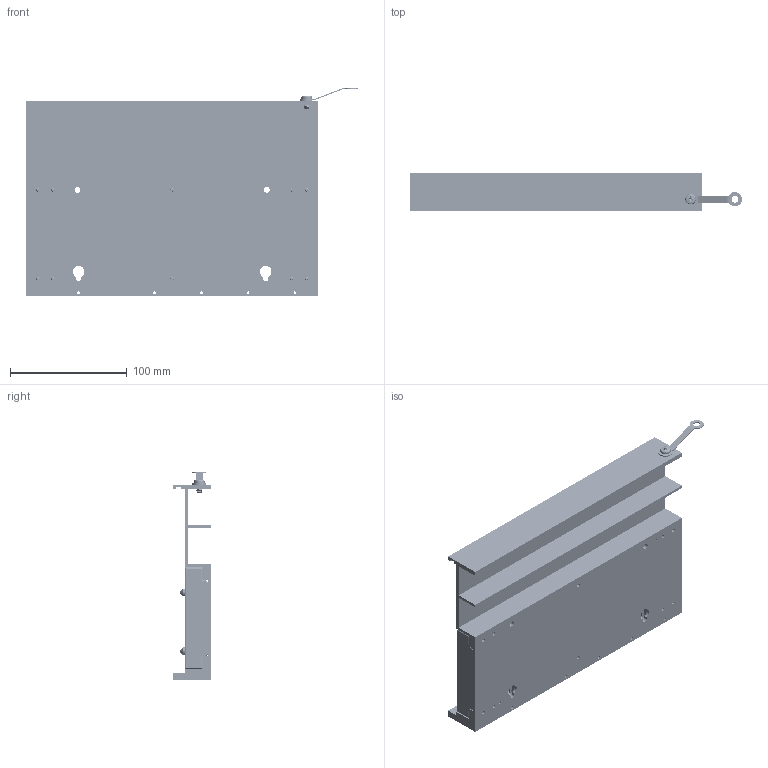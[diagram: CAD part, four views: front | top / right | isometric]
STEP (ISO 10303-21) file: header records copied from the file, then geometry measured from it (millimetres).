
FILE_DESCRIPTION((''),'2;1');
FILE_NAME('POWER_RAIL_ASSY_ASM','2009-04-28T',('administrator'),(''),'PRO/ENGINEER BY PARAMETRIC TECHNOLOGY CORPORATION, 2005110','PRO/ENGINEER BY PARAMETRIC TECHNOLOGY CORPORATION, 2005110','');
FILE_SCHEMA(('CONFIG_CONTROL_DESIGN'));
Length unit declared in the file: millimetre
Products named in the file (9): POWER_RAIL; POWER_RAIL_PCB; POWER_RAIL_CONNECTOR; DOWEL_PIN; POWER_RAIL_SIDE_CAP; A; POWER_RAIL_M3_BOLT; POWER_RAIL_M5_BOLT; POWER_RAIL_ASSY_ASM
Assembly tree (24 placements, depth 2):
  POWER_RAIL_ASSY_ASM
    POWER_RAIL
    POWER_RAIL_PCB
    POWER_RAIL_CONNECTOR  x6
    DOWEL_PIN  x2
    POWER_RAIL_SIDE_CAP  x2
    A
    POWER_RAIL_M3_BOLT  x10
    POWER_RAIL_M5_BOLT
Bounding box: 284 x 32.66 x 178.5 mm (x, y, z)
Volume: 319675.8 mm3; surface area: 260626.6 mm2
Topology: 24 solids, 24 shells, 13310 faces, 37135 edges, 24120 vertices
Faces by surface type: plane 10776, cylinder 2212, bspline 146, torus 66, cone 60, sphere 26, revolution 24
Entity records: 85566 total; most frequent: CARTESIAN_POINT 20676, ORIENTED_EDGE 13878, DIRECTION 12794, EDGE_CURVE 6939, VECTOR 5782, LINE 5782, VERTEX_POINT 4513, AXIS2_PLACEMENT_3D 3504
